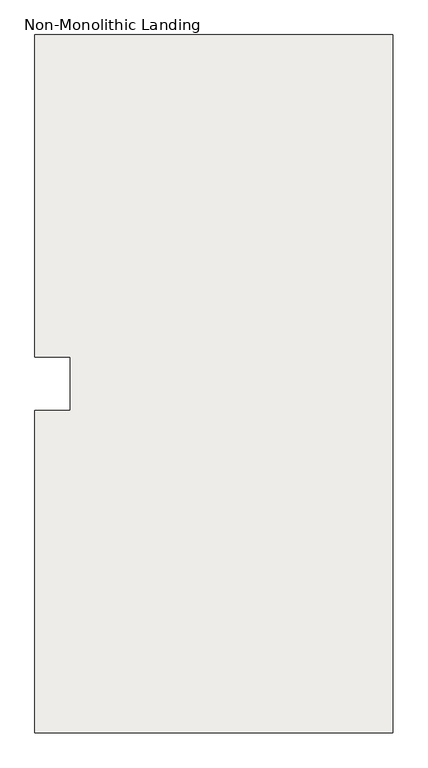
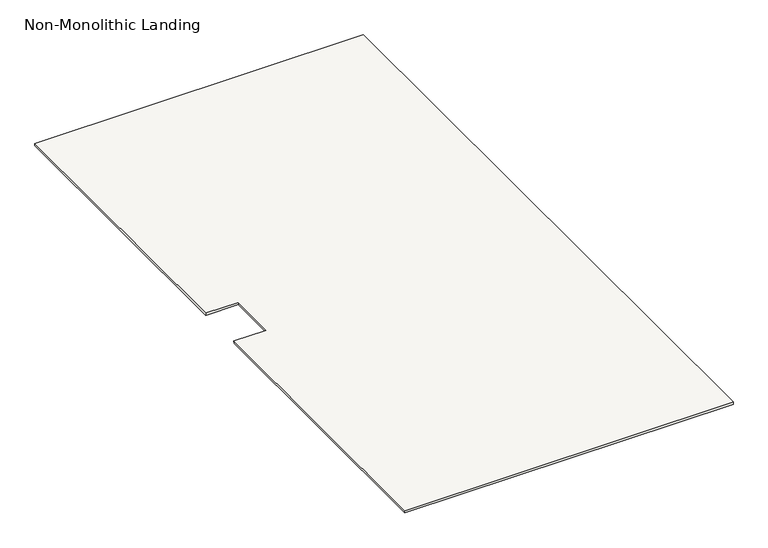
"""IFC4 building model written with IfcOpenShell, lengths in millimetres: slab geometry, Non-Monolithic Landing."""

from ifc_helpers import new_model, si_unit, origin, place, context, project, spatial, faceted_brep, source, transform, mapped, element, save


def non_monolithic_landing_bc0c6dcb(model_context):
    return source(origin(), model_context, "Body", "Brep", [
        faceted_brep([(14712.5, 6790.0, 5050.0), (15722.5, 6790.0, 5050.0), (15722.5, 8759.9999854, 5050.0), (14712.5000334, 8759.9999854, 5050.0), (14712.5000334, 7850.0000116, 5050.0), (14812.4999776, 7850.0000116, 5050.0), (14812.4999776, 7700.0000224, 5050.0), (14712.5, 7700.0000224, 5050.0), (15722.5, 8759.9999854, 5042.5), (15722.5, 6790.0, 5042.5), (14713.3181818, 6790.0, 5042.5), (14713.3181818, 7700.0000224, 5042.5), (14812.4999776, 7700.0000224, 5042.5), (14812.4999776, 7850.0000116, 5042.5), (14712.5000334, 7850.0000116, 5042.5), (14712.5000334, 8759.9999854, 5042.5)], [[[0, 1, 2, 3, 4, 5, 6, 7]], [[8, 9, 10, 11, 12, 13, 14, 15]], [[4, 3, 15, 14]], [[5, 4, 14, 13]], [[6, 5, 13, 12]], [[7, 6, 12, 11]], [[1, 0, 10, 9]], [[2, 1, 9, 8]], [[3, 2, 8, 15]], [[0, 7, 11, 10]]]),
    ])


if __name__ == "__main__":
    model = new_model("IFC4")
    model_context = context("Model", 3, world=origin())
    ifc_project = project(units=[si_unit("LENGTHUNIT", "METRE", prefix="MILLI")], contexts=[model_context])
    site = spatial("IfcSite", under=ifc_project)
    building = spatial("IfcBuilding", under=site)
    placement = place(None, origin())
    non_monolithic_landing_shape = non_monolithic_landing_bc0c6dcb(model_context)
    element("IfcSlab", 1, ObjectType="Non-Monolithic Landing", at=placement, inside=building, context=model_context, shape_type="MappedRepresentation", body=[
        mapped(non_monolithic_landing_shape, transform((0.0, 0.0, 0.0), x_axis=(1.0, 0.0, 0.0), y_axis=(0.0, 1.0, 0.0), z_axis=(0.0, 0.0, 1.0))),
    ])
    save(model, "model.ifc")
